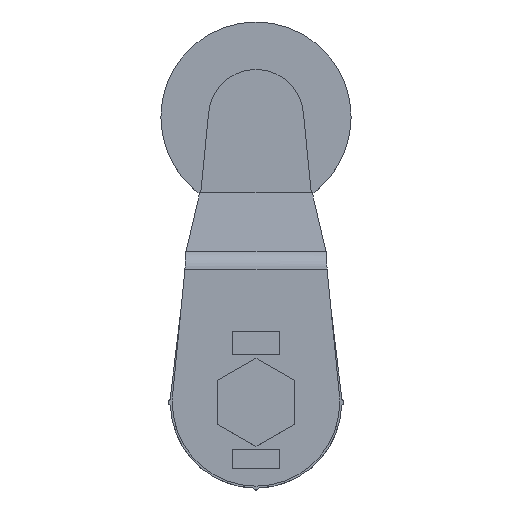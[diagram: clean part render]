
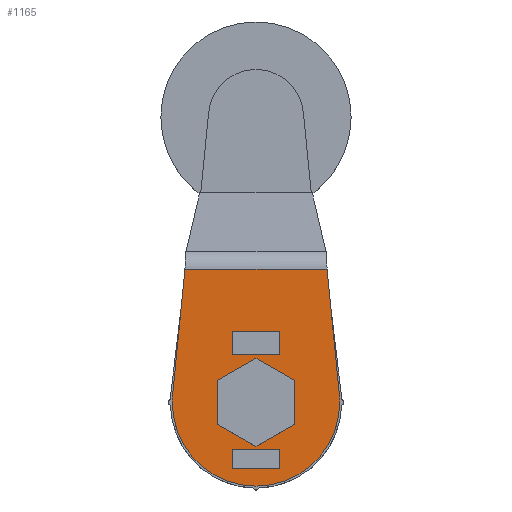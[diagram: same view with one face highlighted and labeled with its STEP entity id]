
A CAD part, top view. The second image highlights one B-rep face of the part: STEP entity #1165.
In plain terms, the highlighted planar face has unit normal (0, 0, 1) as drawn and (0, 0, -1) by its records, which use the part's own axes.
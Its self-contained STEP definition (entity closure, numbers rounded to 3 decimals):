
#275 = EDGE_CURVE ( 'NONE', #1246, #1142, #3369, .T. ) ;
#278 = ORIENTED_EDGE ( 'NONE', *, *, #1245, .F. ) ;
#975 = EDGE_CURVE ( 'NONE', #978, #1003, #4267, .T. ) ;
#978 = VERTEX_POINT ( 'NONE', #4255 ) ;
#983 = ORIENTED_EDGE ( 'NONE', *, *, #1240, .F. ) ;
#985 = VERTEX_POINT ( 'NONE', #4302 ) ;
#989 = EDGE_CURVE ( 'NONE', #1123, #985, #4301, .T. ) ;
#1000 = VERTEX_POINT ( 'NONE', #4285 ) ;
#1002 = EDGE_CURVE ( 'NONE', #1003, #1000, #4284, .T. ) ;
#1003 = VERTEX_POINT ( 'NONE', #4339 ) ;
#1063 = ORIENTED_EDGE ( 'NONE', *, *, #1064, .F. ) ;
#1064 = EDGE_CURVE ( 'NONE', #1176, #1174, #4403, .T. ) ;
#1065 = ORIENTED_EDGE ( 'NONE', *, *, #1114, .F. ) ;
#1066 = VERTEX_POINT ( 'NONE', #4463 ) ;
#1069 = VERTEX_POINT ( 'NONE', #4458 ) ;
#1071 = EDGE_CURVE ( 'NONE', #1069, #978, #4457, .T. ) ;
#1074 = VERTEX_POINT ( 'NONE', #4443 ) ;
#1075 = ORIENTED_EDGE ( 'NONE', *, *, #1076, .F. ) ;
#1076 = EDGE_CURVE ( 'NONE', #1077, #1169, #4442, .T. ) ;
#1077 = VERTEX_POINT ( 'NONE', #4438 ) ;
#1078 = ORIENTED_EDGE ( 'NONE', *, *, #1079, .F. ) ;
#1079 = EDGE_CURVE ( 'NONE', #1080, #1077, #4437, .T. ) ;
#1080 = VERTEX_POINT ( 'NONE', #4433 ) ;
#1081 = EDGE_LOOP ( 'NONE', ( #1172, #1063, #1065, #1115 ) ) ;
#1114 = EDGE_CURVE ( 'NONE', #1066, #1176, #4505, .T. ) ;
#1115 = ORIENTED_EDGE ( 'NONE', *, *, #1116, .F. ) ;
#1116 = EDGE_CURVE ( 'NONE', #1175, #1066, #4501, .T. ) ;
#1117 = EDGE_LOOP ( 'NONE', ( #1118, #1119, #983, #1285, #1288, #2642 ) ) ;
#1118 = ORIENTED_EDGE ( 'NONE', *, *, #1125, .F. ) ;
#1119 = ORIENTED_EDGE ( 'NONE', *, *, #989, .T. ) ;
#1123 = VERTEX_POINT ( 'NONE', #4497 ) ;
#1125 = EDGE_CURVE ( 'NONE', #1123, #1069, #4551, .T. ) ;
#1142 = VERTEX_POINT ( 'NONE', #4571 ) ;
#1165 = ADVANCED_FACE ( 'NONE', ( #4595, #4594, #4593, #4592 ), #4591, .T. ) ;
#1166 = EDGE_LOOP ( 'NONE', ( #1167, #1075, #1078, #1170 ) ) ;
#1167 = ORIENTED_EDGE ( 'NONE', *, *, #1168, .F. ) ;
#1168 = EDGE_CURVE ( 'NONE', #1169, #1074, #4589, .T. ) ;
#1169 = VERTEX_POINT ( 'NONE', #4582 ) ;
#1170 = ORIENTED_EDGE ( 'NONE', *, *, #1171, .F. ) ;
#1171 = EDGE_CURVE ( 'NONE', #1074, #1080, #4581, .T. ) ;
#1172 = ORIENTED_EDGE ( 'NONE', *, *, #1173, .F. ) ;
#1173 = EDGE_CURVE ( 'NONE', #1174, #1175, #4642, .T. ) ;
#1174 = VERTEX_POINT ( 'NONE', #4638 ) ;
#1175 = VERTEX_POINT ( 'NONE', #4637 ) ;
#1176 = VERTEX_POINT ( 'NONE', #4636 ) ;
#1240 = EDGE_CURVE ( 'NONE', #1000, #985, #4715, .T. ) ;
#1245 = EDGE_CURVE ( 'NONE', #1142, #1246, #4761, .T. ) ;
#1246 = VERTEX_POINT ( 'NONE', #4756 ) ;
#1285 = ORIENTED_EDGE ( 'NONE', *, *, #1002, .F. ) ;
#1288 = ORIENTED_EDGE ( 'NONE', *, *, #975, .F. ) ;
#2642 = ORIENTED_EDGE ( 'NONE', *, *, #1071, .F. ) ;
#2643 = EDGE_LOOP ( 'NONE', ( #2666, #278 ) ) ;
#2666 = ORIENTED_EDGE ( 'NONE', *, *, #275, .F. ) ;
#3366 = DIRECTION ( 'NONE',  ( -1., 0., 0. ) ) ;
#3367 = DIRECTION ( 'NONE',  ( 0., 0., -1. ) ) ;
#3368 = AXIS2_PLACEMENT_3D ( 'NONE', #3375, #3367, #3366 ) ;
#3369 = CIRCLE ( 'NONE', #3368, 2.5 ) ;
#3375 = CARTESIAN_POINT ( 'NONE',  ( 0., 0., 0. ) ) ;
#4255 = CARTESIAN_POINT ( 'NONE',  ( -8.8, 0., 0. ) ) ;
#4263 = DIRECTION ( 'NONE',  ( -1., 0., 0. ) ) ;
#4264 = DIRECTION ( 'NONE',  ( 0., 0., 1. ) ) ;
#4265 = CARTESIAN_POINT ( 'NONE',  ( 0., 0., 0. ) ) ;
#4266 = AXIS2_PLACEMENT_3D ( 'NONE', #4265, #4264, #4263 ) ;
#4267 = CIRCLE ( 'NONE', #4266, 8.8 ) ;
#4283 = CARTESIAN_POINT ( 'NONE',  ( 0., 0., 0. ) ) ;
#4284 = CIRCLE ( 'NONE', #4342, 8.8 ) ;
#4285 = CARTESIAN_POINT ( 'NONE',  ( 8.758, 0.858, 0. ) ) ;
#4298 = DIRECTION ( 'NONE',  ( 1., 0., 0. ) ) ;
#4299 = VECTOR ( 'NONE', #4298, 1000. ) ;
#4300 = CARTESIAN_POINT ( 'NONE',  ( 0., 13.997, 0. ) ) ;
#4301 = LINE ( 'NONE', #4300, #4299 ) ;
#4302 = CARTESIAN_POINT ( 'NONE',  ( 7.47, 13.997, 0. ) ) ;
#4339 = CARTESIAN_POINT ( 'NONE',  ( 8.8, 0., 0. ) ) ;
#4340 = DIRECTION ( 'NONE',  ( -1., 0., 0. ) ) ;
#4341 = DIRECTION ( 'NONE',  ( 0., 0., 1. ) ) ;
#4342 = AXIS2_PLACEMENT_3D ( 'NONE', #4283, #4341, #4340 ) ;
#4400 = DIRECTION ( 'NONE',  ( -1., 0., 0. ) ) ;
#4401 = VECTOR ( 'NONE', #4400, 1000. ) ;
#4402 = CARTESIAN_POINT ( 'NONE',  ( 0., 5., 0. ) ) ;
#4403 = LINE ( 'NONE', #4402, #4401 ) ;
#4433 = CARTESIAN_POINT ( 'NONE',  ( 2.5, -5., 0. ) ) ;
#4434 = DIRECTION ( 'NONE',  ( 0., -1., 0. ) ) ;
#4435 = VECTOR ( 'NONE', #4434, 1000. ) ;
#4436 = CARTESIAN_POINT ( 'NONE',  ( 2.5, 38.96, 0. ) ) ;
#4437 = LINE ( 'NONE', #4436, #4435 ) ;
#4438 = CARTESIAN_POINT ( 'NONE',  ( 2.5, -7., 0. ) ) ;
#4439 = DIRECTION ( 'NONE',  ( -1., 0., 0. ) ) ;
#4440 = VECTOR ( 'NONE', #4439, 1000. ) ;
#4441 = CARTESIAN_POINT ( 'NONE',  ( 0., -7., 0. ) ) ;
#4442 = LINE ( 'NONE', #4441, #4440 ) ;
#4443 = CARTESIAN_POINT ( 'NONE',  ( -2.5, -5., 0. ) ) ;
#4453 = DIRECTION ( 'NONE',  ( -1., 0., 0. ) ) ;
#4454 = DIRECTION ( 'NONE',  ( 0., 0., 1. ) ) ;
#4455 = CARTESIAN_POINT ( 'NONE',  ( 0., 0., 0. ) ) ;
#4456 = AXIS2_PLACEMENT_3D ( 'NONE', #4455, #4454, #4453 ) ;
#4457 = CIRCLE ( 'NONE', #4456, 8.8 ) ;
#4458 = CARTESIAN_POINT ( 'NONE',  ( -8.758, 0.858, 0. ) ) ;
#4463 = CARTESIAN_POINT ( 'NONE',  ( 2.5, 7.5, 0. ) ) ;
#4497 = CARTESIAN_POINT ( 'NONE',  ( -7.47, 13.997, 0. ) ) ;
#4498 = DIRECTION ( 'NONE',  ( 1., 0., 0. ) ) ;
#4499 = VECTOR ( 'NONE', #4498, 1000. ) ;
#4500 = CARTESIAN_POINT ( 'NONE',  ( 0., 7.5, 0. ) ) ;
#4501 = LINE ( 'NONE', #4500, #4499 ) ;
#4502 = DIRECTION ( 'NONE',  ( 0., -1., 0. ) ) ;
#4503 = VECTOR ( 'NONE', #4502, 1000. ) ;
#4504 = CARTESIAN_POINT ( 'NONE',  ( 2.5, 38.96, 0. ) ) ;
#4505 = LINE ( 'NONE', #4504, #4503 ) ;
#4548 = DIRECTION ( 'NONE',  ( -0.098, -0.995, 0. ) ) ;
#4549 = VECTOR ( 'NONE', #4548, 1000. ) ;
#4550 = CARTESIAN_POINT ( 'NONE',  ( -8.758, 0.858, 0. ) ) ;
#4551 = LINE ( 'NONE', #4550, #4549 ) ;
#4571 = CARTESIAN_POINT ( 'NONE',  ( 2.5, 0., 0. ) ) ;
#4581 = LINE ( 'NONE', #4645, #4644 ) ;
#4582 = CARTESIAN_POINT ( 'NONE',  ( -2.5, -7., 0. ) ) ;
#4583 = DIRECTION ( 'NONE',  ( 0., 1., 0. ) ) ;
#4584 = VECTOR ( 'NONE', #4583, 1000. ) ;
#4585 = CARTESIAN_POINT ( 'NONE',  ( -2.5, 38.96, 0. ) ) ;
#4586 = DIRECTION ( 'NONE',  ( -1., 0., 0. ) ) ;
#4587 = DIRECTION ( 'NONE',  ( 0., 0., -1. ) ) ;
#4588 = CARTESIAN_POINT ( 'NONE',  ( 0., 38.96, 0. ) ) ;
#4589 = LINE ( 'NONE', #4585, #4584 ) ;
#4590 = AXIS2_PLACEMENT_3D ( 'NONE', #4588, #4587, #4586 ) ;
#4591 = PLANE ( 'NONE',  #4590 ) ;
#4592 = FACE_BOUND ( 'NONE', #2643, .T. ) ;
#4593 = FACE_OUTER_BOUND ( 'NONE', #1117, .T. ) ;
#4594 = FACE_BOUND ( 'NONE', #1081, .T. ) ;
#4595 = FACE_BOUND ( 'NONE', #1166, .T. ) ;
#4636 = CARTESIAN_POINT ( 'NONE',  ( 2.5, 5., 0. ) ) ;
#4637 = CARTESIAN_POINT ( 'NONE',  ( -2.5, 7.5, 0. ) ) ;
#4638 = CARTESIAN_POINT ( 'NONE',  ( -2.5, 5., 0. ) ) ;
#4639 = DIRECTION ( 'NONE',  ( 0., 1., 0. ) ) ;
#4640 = VECTOR ( 'NONE', #4639, 1000. ) ;
#4641 = CARTESIAN_POINT ( 'NONE',  ( -2.5, 38.96, 0. ) ) ;
#4642 = LINE ( 'NONE', #4641, #4640 ) ;
#4643 = DIRECTION ( 'NONE',  ( 1., 0., 0. ) ) ;
#4644 = VECTOR ( 'NONE', #4643, 1000. ) ;
#4645 = CARTESIAN_POINT ( 'NONE',  ( 0., -5., 0. ) ) ;
#4709 = DIRECTION ( 'NONE',  ( -0.098, 0.995, 0. ) ) ;
#4710 = VECTOR ( 'NONE', #4709, 1000. ) ;
#4711 = CARTESIAN_POINT ( 'NONE',  ( 4.976, 39.448, 0. ) ) ;
#4715 = LINE ( 'NONE', #4711, #4710 ) ;
#4756 = CARTESIAN_POINT ( 'NONE',  ( -2.5, 0., 0. ) ) ;
#4757 = DIRECTION ( 'NONE',  ( -1., 0., 0. ) ) ;
#4758 = DIRECTION ( 'NONE',  ( 0., 0., -1. ) ) ;
#4759 = CARTESIAN_POINT ( 'NONE',  ( 0., 0., 0. ) ) ;
#4760 = AXIS2_PLACEMENT_3D ( 'NONE', #4759, #4758, #4757 ) ;
#4761 = CIRCLE ( 'NONE', #4760, 2.5 ) ;
